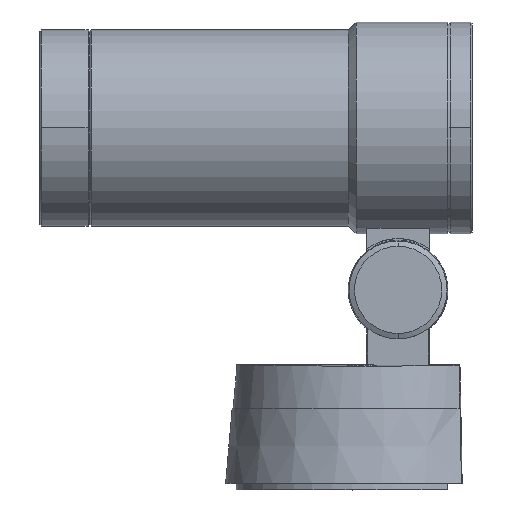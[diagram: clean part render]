
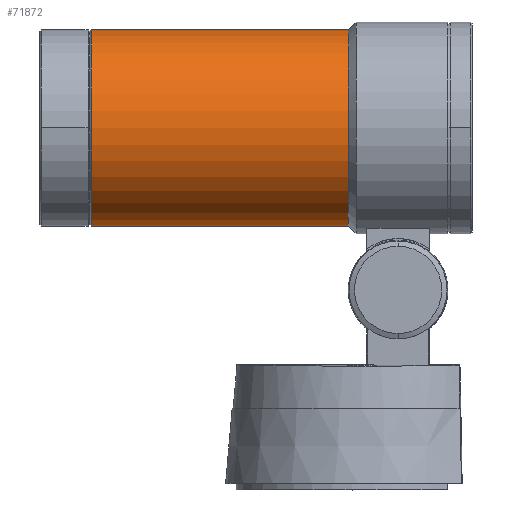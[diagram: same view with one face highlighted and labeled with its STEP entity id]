
A CAD part, top view. The second image highlights one B-rep face of the part: STEP entity #71872.
In plain terms, the highlighted cylindrical face has radius 31.5 mm (diameter 63 mm), a partial arc.
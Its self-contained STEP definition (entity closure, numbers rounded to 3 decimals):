
#62966=DIRECTION('',(1.,0.,0.));
#62967=VECTOR('',#62966,82.5);
#62968=CARTESIAN_POINT('',(-98.5,0.,20.5));
#62969=LINE('',#62968,#62967);
#63003=CARTESIAN_POINT('',(-98.5,0.,52.));
#63004=DIRECTION('',(1.,0.,0.));
#63005=DIRECTION('',(0.,0.,1.));
#63006=AXIS2_PLACEMENT_3D('',#63003,#63004,#63005);
#63008=DIRECTION('',(1.,0.,0.));
#63009=VECTOR('',#63008,82.5);
#63010=CARTESIAN_POINT('',(-98.5,0.,83.5));
#63011=LINE('',#63010,#63009);
#63021=CARTESIAN_POINT('',(-16.,0.,52.));
#63022=DIRECTION('',(-1.,0.,0.));
#63023=DIRECTION('',(0.,0.,-1.));
#63024=AXIS2_PLACEMENT_3D('',#63021,#63022,#63023);
#68468=CARTESIAN_POINT('',(-16.,0.,83.5));
#68469=CARTESIAN_POINT('',(-16.,0.,20.5));
#68470=VERTEX_POINT('',#68468);
#68471=VERTEX_POINT('',#68469);
#68472=CARTESIAN_POINT('',(-98.5,0.,20.5));
#68473=CARTESIAN_POINT('',(-98.5,0.,83.5));
#68474=VERTEX_POINT('',#68472);
#68475=VERTEX_POINT('',#68473);
#71860=CARTESIAN_POINT('',(-99.,0.,52.));
#71861=DIRECTION('',(1.,0.,0.));
#71862=DIRECTION('',(0.,0.,-1.));
#71863=AXIS2_PLACEMENT_3D('',#71860,#71861,#71862);
#71864=CYLINDRICAL_SURFACE('',#71863,31.5);
#71865=ORIENTED_EDGE('',*,*,#71810,.T.);
#71867=ORIENTED_EDGE('',*,*,#71866,.F.);
#71868=ORIENTED_EDGE('',*,*,#71807,.F.);
#71869=ORIENTED_EDGE('',*,*,#71853,.F.);
#71870=EDGE_LOOP('',(#71865,#71867,#71868,#71869));
#71871=FACE_OUTER_BOUND('',#71870,.F.);
#71872=ADVANCED_FACE('',(#71871),#71864,.T.);
#63007=CIRCLE('',#63006,31.5);
#63025=CIRCLE('',#63024,31.5);
#71807=EDGE_CURVE('',#68474,#68471,#62969,.T.);
#71810=EDGE_CURVE('',#68475,#68470,#63011,.T.);
#71853=EDGE_CURVE('',#68475,#68474,#63007,.T.);
#71866=EDGE_CURVE('',#68471,#68470,#63025,.T.);
